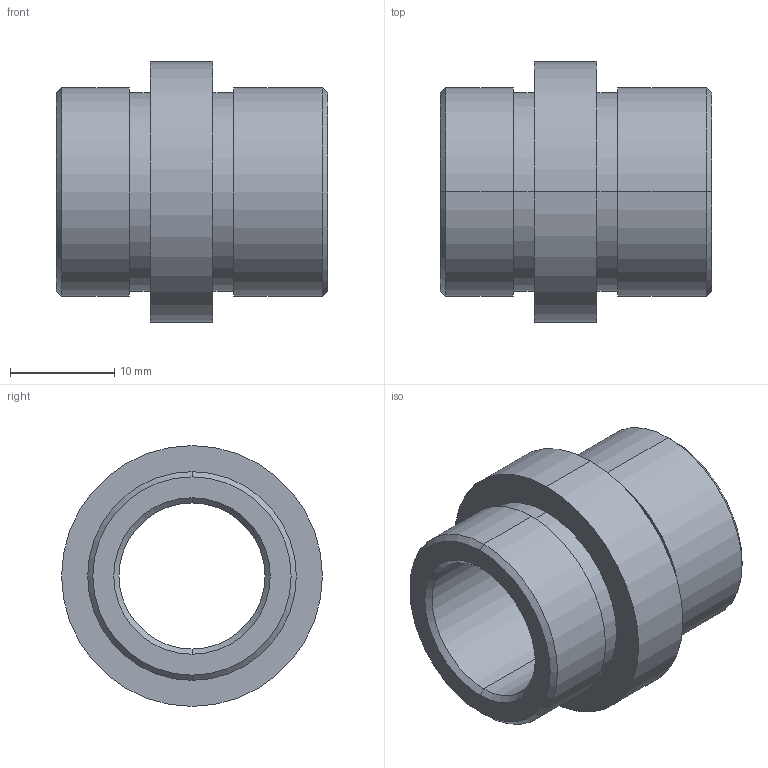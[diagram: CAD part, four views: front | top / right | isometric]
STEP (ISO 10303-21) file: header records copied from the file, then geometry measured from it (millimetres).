
FILE_DESCRIPTION( ( 'STEP AP203' ), '1' );
FILE_NAME( 'D:/Delta 3 D/D21/D21 - 14x17.step', '2002-12-31T22:27:42', ( ' ' ), ( ' ' ), 'XStep 1.0', ' ', ' ' );
FILE_SCHEMA( ( 'CONFIG_CONTROL_DESIGN' ) );
Length unit declared in the file: metre
Products named in the file (1): 1
Bounding box: 26 x 25 x 25 mm (x, y, z)
Volume: 5076.8 mm3; surface area: 3592.7 mm2
Topology: 1 solids, 1 shells, 26 faces, 52 edges, 32 vertices
Faces by surface type: revolution 20, bspline 6
Entity records: 773 total; most frequent: CARTESIAN_POINT 169, DIRECTION 106, ORIENTED_EDGE 104, EDGE_CURVE 52, AXIS2_PLACEMENT_3D 33, EDGE_LOOP 32, VERTEX_POINT 32, CIRCLE 32
